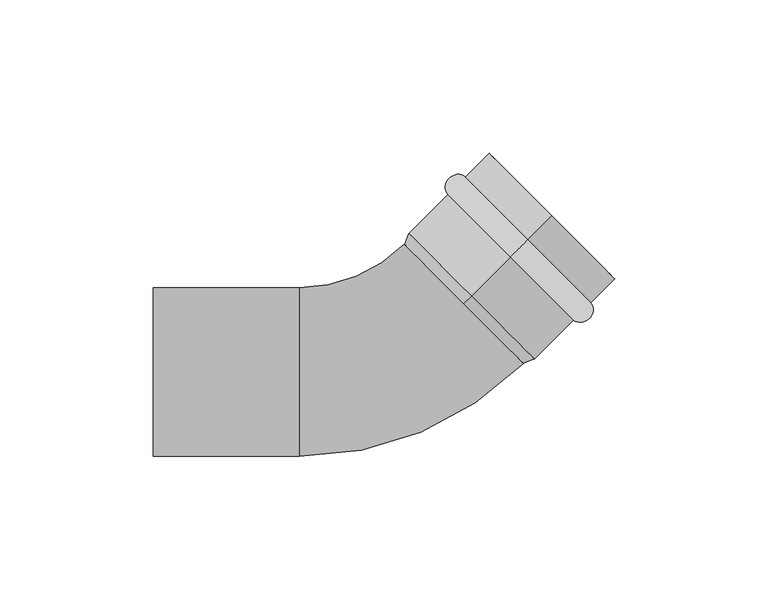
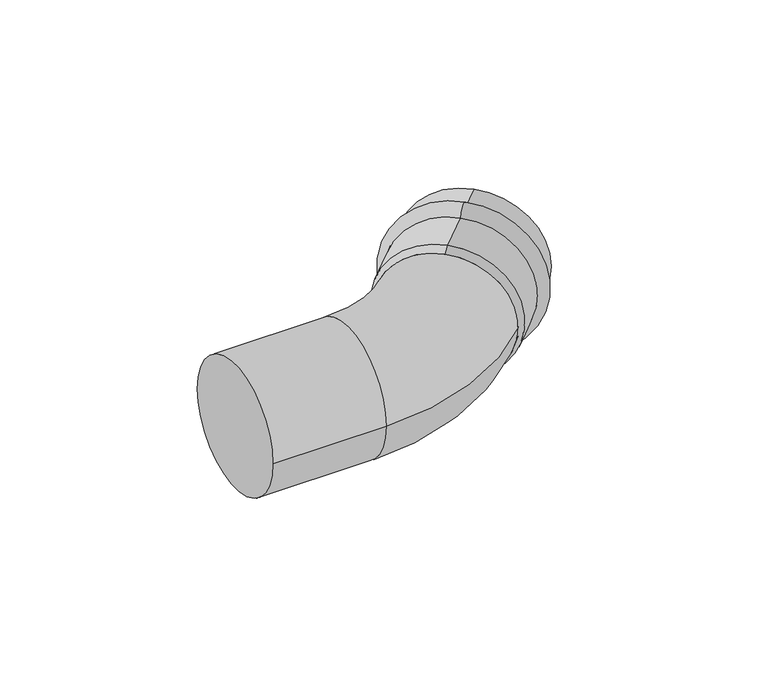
"""IFC4 building model written with IfcOpenShell, lengths in millimetres: pipe fitting geometry, РЕХАУ_Пресс Отвод-вставка : 54 x 45°."""

from ifc_helpers import new_model, si_unit, point, frame, origin, place, context, project, spatial, polyline, circle_curve, ellipse_curve, trimmed, source, transform, mapped, element, save
from ifc_brep_helpers import plane_surface, cylinder_surface, revolved_surface, advanced_brep


def pipe_fitting_4b4f52a9(model_context):
    return source(origin(), model_context, "Body", "AdvancedBrep", [
        advanced_brep(
        [(122.1335137, 43.1335137, 29.0), (122.1335137, 43.1335137, -29.0), (116.4766594, 37.4766594, -29.0), (116.4766594, 37.4766594, 29.0)],
        [
            (0, 1, circle_curve(frame((122.1335137, 43.1335137, 0.0), z_axis=(0.7071067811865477, 0.7071067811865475, 0.0), x_axis=(0.0, 0.0, -1.0)), 29.0)),
            (1, 2),
            (2, 3, circle_curve(frame((116.4766594, 37.4766594, 0.0), z_axis=(-0.7071067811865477, -0.7071067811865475, 0.0), x_axis=(0.0, 0.0, -1.0)), 29.0)),
            (3, 0),
            (1, 0, circle_curve(frame((122.1335137, 43.1335137, 0.0), z_axis=(0.7071067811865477, 0.7071067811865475, 0.0), x_axis=(0.0, 0.0, -1.0)), 29.0)),
            (3, 2, circle_curve(frame((116.4766594, 37.4766594, 0.0), z_axis=(-0.7071067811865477, -0.7071067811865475, 0.0), x_axis=(0.0, 0.0, -1.0)), 29.0)),
            (2, 1, ellipse_curve(frame((119.3050865, 40.3050865, -29.0), z_axis=(0.7071067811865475, -0.7071067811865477, 0.0), x_axis=(0.7071067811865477, 0.7071067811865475, 0.0)), 4.0, 3.5)),
            (0, 3, ellipse_curve(frame((119.3050865, 40.3050865, 29.0), z_axis=(0.7071067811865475, -0.7071067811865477, 0.0), x_axis=(0.7071067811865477, 0.7071067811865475, 0.0)), 4.0, 3.5)),
        ],
        [
            revolved_surface(polyline([(116.4766594, 37.4766594, -29.0), (122.13351370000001, 43.133513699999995, -29.0)]), (100.9203102, 21.9203102, 0.0), (-0.7071067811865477, -0.7071067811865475, 0.0)),
            revolved_surface(trimmed(ellipse_curve(frame((119.3050865, 40.3050865, -29.0), z_axis=(-0.7071067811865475, 0.7071067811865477, 0.0), x_axis=(0.7071067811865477, 0.7071067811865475, 0.0)), 4.0, 3.5), [point((122.1335137, 43.1335137, -29.0))], [point((116.4766594, 37.4766594, -29.0))], True, "CARTESIAN"), (100.9203102, 21.9203102, 0.0), (-0.7071067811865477, -0.7071067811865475, 0.0)),
        ],
        [
            (0, [[1, 2, 3, 4]]),
            (0, [[5, -4, 6, -2]]),
            (1, [[-3, 7, -1, 8]]),
            (1, [[-6, -8, -5, -7]]),
        ],
    ),
        advanced_brep(
        [(101.2499786, 22.2499786, 27.5), (101.2499786, 22.2499786, -27.5), (103.7487373, 24.7487373, -29.0), (103.7487373, 24.7487373, 29.0), (129.9116882, 50.9116882, 27.5), (129.9116882, 50.9116882, -27.5), (129.9116882, 50.9116882, 29.0), (129.9116882, 50.9116882, -29.0)],
        [
            (0, 1, circle_curve(frame((101.2499786, 22.2499786, 0.0), z_axis=(0.7071067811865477, 0.7071067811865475, 0.0), x_axis=(0.0, 0.0, -1.0)), 27.5)),
            (1, 2),
            (2, 3, circle_curve(frame((103.7487373, 24.7487373, 0.0), z_axis=(-0.7071067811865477, -0.7071067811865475, 0.0), x_axis=(0.0, 0.0, -1.0)), 29.0)),
            (3, 0),
            (1, 0, circle_curve(frame((101.2499786, 22.2499786, 0.0), z_axis=(0.7071067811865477, 0.7071067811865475, 0.0), x_axis=(0.0, 0.0, -1.0)), 27.5)),
            (3, 2, circle_curve(frame((103.7487373, 24.7487373, 0.0), z_axis=(-0.7071067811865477, -0.7071067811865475, 0.0), x_axis=(0.0, 0.0, -1.0)), 29.0)),
            (4, 5, circle_curve(frame((129.9116882, 50.9116882, 0.0), z_axis=(0.7071067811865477, 0.7071067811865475, 0.0), x_axis=(0.0, 0.0, -1.0)), 27.5)),
            (5, 1),
            (0, 4),
            (5, 4, circle_curve(frame((129.9116882, 50.9116882, 0.0), z_axis=(0.7071067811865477, 0.7071067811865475, 0.0), x_axis=(0.0, 0.0, -1.0)), 27.5)),
            (6, 7, circle_curve(frame((129.9116882, 50.9116882, 0.0), z_axis=(0.7071067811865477, 0.7071067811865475, 0.0), x_axis=(0.0, 0.0, -1.0)), 29.0)),
            (7, 5),
            (4, 6),
            (7, 6, circle_curve(frame((129.9116882, 50.9116882, 0.0), z_axis=(0.7071067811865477, 0.7071067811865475, 0.0), x_axis=(0.0, 0.0, -1.0)), 29.0)),
            (2, 7),
            (6, 3),
        ],
        [
            revolved_surface(polyline([(103.7487373, 24.7487373, -29.0), (101.2499786, 22.2499786, -27.5)]), (100.9203102, 21.9203102, 0.0), (-0.7071067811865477, -0.7071067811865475, 0.0)),
            revolved_surface(polyline([(101.2499786, 22.2499786, -27.5), (129.91168820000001, 50.911688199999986, -27.5)]), (100.9203102, 21.9203102, 0.0), (-0.7071067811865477, -0.7071067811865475, 0.0)),
            plane_surface(frame((129.9116882, 50.9116882, 0.0), z_axis=(0.7071067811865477, 0.7071067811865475, 0.0), x_axis=(0.0, 0.0, -1.0))),
            cylinder_surface(frame((100.9203102, 21.9203102, 0.0), z_axis=(-0.7071067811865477, -0.7071067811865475, 0.0), x_axis=(0.0, 0.0, -1.0)), 29.0),
        ],
        [
            (0, [[1, 2, 3, 4]]),
            (0, [[5, -4, 6, -2]]),
            (1, [[7, 8, -1, 9]]),
            (1, [[10, -9, -5, -8]]),
            (2, [[11, 12, -7, 13]]),
            (2, [[14, -13, -10, -12]]),
            (3, [[-3, 15, -11, 16]]),
            (3, [[-6, -16, -14, -15]]),
        ],
    ),
        advanced_brep(
        [(0.0, -27.5, 0.0), (0.0, 27.5, 0.0), (47.5337785, -27.5, 0.0), (47.5337785, 27.5, 0.0), (81.8045421, 41.695415, 0.0), (120.695415, 2.8045421, 0.0), (123.1941738, 5.3033009, 0.0), (84.3033009, 44.1941738, 0.0)],
        [
            (0, 1, circle_curve(frame((0.0, 0.0, 0.0), z_axis=(-1.0, 0.0, 0.0), x_axis=(0.0, 1.0, 0.0)), 27.5)),
            (1, 0, circle_curve(frame((0.0, 0.0, 0.0), z_axis=(-1.0, 0.0, 0.0), x_axis=(0.0, 1.0, 0.0)), 27.5)),
            (0, 2),
            (2, 3, circle_curve(frame((47.5337785, 0.0, 0.0), z_axis=(-1.0, 0.0, 0.0), x_axis=(0.0, 1.0, 0.0)), 27.5)),
            (3, 1),
            (3, 2, circle_curve(frame((47.5337785, 0.0, 0.0), z_axis=(-1.0, 0.0, 0.0), x_axis=(0.0, 1.0, 0.0)), 27.5)),
            (4, 3, circle_curve(frame((47.5337785, 75.9661786, 0.0), z_axis=(0.0, 0.0, -1.0), x_axis=(0.0, -1.0, 0.0)), 48.4661786)),
            (2, 5, circle_curve(frame((47.5337785, 75.9661786, 0.0), z_axis=(0.0, 0.0, 1.0), x_axis=(0.0, -1.0, 0.0)), 103.4661786)),
            (5, 4, circle_curve(frame((101.2499786, 22.2499786, 0.0), z_axis=(-0.7071067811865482, -0.7071067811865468, 0.0), x_axis=(-0.7071067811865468, 0.7071067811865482, 0.0)), 27.5)),
            (4, 5, circle_curve(frame((101.2499786, 22.2499786, 0.0), z_axis=(-0.707106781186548, -0.707106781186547, 0.0), x_axis=(-0.707106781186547, 0.707106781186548, 0.0)), 27.5)),
            (6, 7, circle_curve(frame((103.7487373, 24.7487373, 0.0), z_axis=(0.7071067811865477, 0.7071067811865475, 0.0), x_axis=(-0.7071067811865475, 0.7071067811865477, 0.0)), 27.5)),
            (7, 6, circle_curve(frame((103.7487373, 24.7487373, 0.0), z_axis=(0.7071067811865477, 0.7071067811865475, 0.0), x_axis=(-0.7071067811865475, 0.7071067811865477, 0.0)), 27.5)),
            (5, 6),
            (7, 4),
        ],
        [
            plane_surface(frame((0.0, 0.0, 0.0), z_axis=(-1.0, 0.0, 0.0), x_axis=(0.0, 0.0, 1.0))),
            cylinder_surface(frame((0.0, 0.0, 0.0), z_axis=(-1.0, 0.0, 0.0), x_axis=(0.0, 1.0, 0.0)), 27.5),
            revolved_surface(trimmed(ellipse_curve(frame((47.5337785, 0.0, 0.0), z_axis=(-1.0, 0.0, 0.0), x_axis=(0.0, 1.0, 0.0)), 27.5, 27.5), [point((47.5337785, -27.5, 0.0))], [point((47.5337785, 27.5, 0.0))], True, "CARTESIAN"), (47.5337785, 75.9661786, 0.0), (0.0, 0.0, 1.0)),
            revolved_surface(trimmed(ellipse_curve(frame((47.5337785, 0.0, 0.0), z_axis=(-1.0, 0.0, 0.0), x_axis=(0.0, 1.0, 0.0)), 27.5, 27.5), [point((47.5337785, 27.5, 0.0))], [point((47.5337785, -27.5, 0.0))], True, "CARTESIAN"), (47.5337785, 75.9661786, 0.0), (0.0, 0.0, 1.0)),
            plane_surface(frame((103.7487373, 24.7487373, 0.0), z_axis=(0.7071067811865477, 0.7071067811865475, 0.0), x_axis=(0.0, 0.0, 1.0))),
            cylinder_surface(frame((101.2499786, 22.2499786, 0.0), z_axis=(-0.7071067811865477, -0.7071067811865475, 0.0), x_axis=(-0.7071067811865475, 0.7071067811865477, 0.0)), 27.5),
        ],
        [
            (0, [[1, 2]]),
            (1, [[-1, 3, 4, 5]]),
            (1, [[-2, -5, 6, -3]]),
            (2, [[7, -4, 8, 9]]),
            (3, [[-8, -6, -7, 10]]),
            (4, [[11, 12]]),
            (5, [[-9, 13, -12, 14]]),
            (5, [[-10, -14, -11, -13]]),
        ],
    ),
    ])


if __name__ == "__main__":
    model = new_model("IFC4")
    model_context = context("Model", 3, world=origin())
    ifc_project = project(units=[si_unit("LENGTHUNIT", "METRE", prefix="MILLI")], contexts=[model_context])
    site = spatial("IfcSite", under=ifc_project)
    building = spatial("IfcBuilding", under=site)
    placement = place(None, origin())
    pipe_fitting_shape = pipe_fitting_4b4f52a9(model_context)
    element("IfcPipeFitting", 1, ObjectType="РЕХАУ_Пресс Отвод-вставка : 54 x 45°", at=placement, inside=building, context=model_context, shape_type="MappedRepresentation", body=[
        mapped(pipe_fitting_shape, transform((0.0, 0.0, 0.0), x_axis=(1.0, 0.0, 0.0), y_axis=(0.0, 1.0, 0.0), z_axis=(0.0, 0.0, 1.0))),
    ])
    save(model, "model.ifc")
